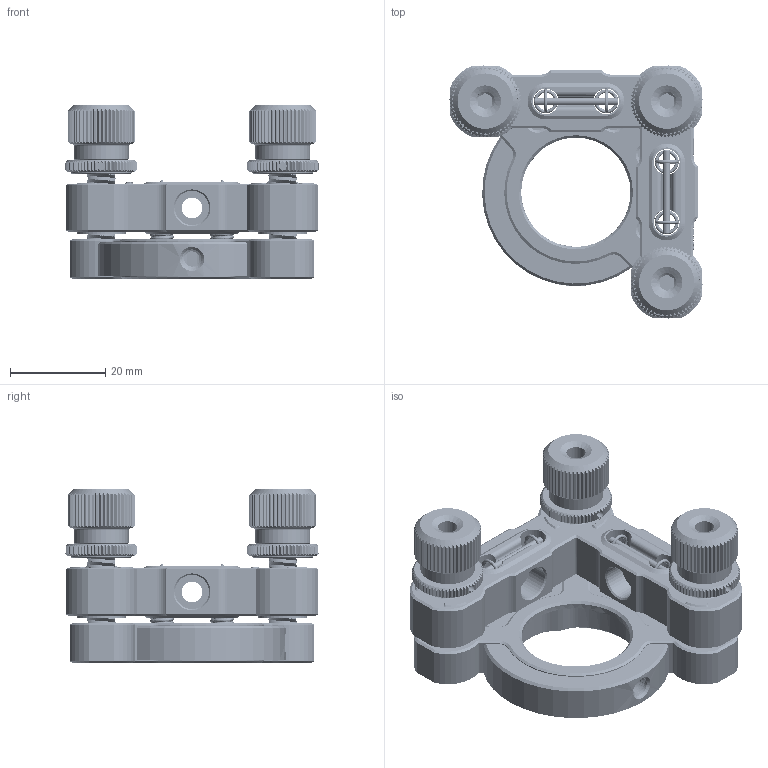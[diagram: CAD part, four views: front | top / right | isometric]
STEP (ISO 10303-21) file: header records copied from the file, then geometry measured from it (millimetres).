
FILE_DESCRIPTION((''),'2;1');
FILE_NAME('OST-K100_ASM','2026-05-25T17:09:08',('R&D'),(''),'CREO PARAMETRIC BY PTC INC, 2021063','CREO PARAMETRIC BY PTC INC, 2021063','');
FILE_SCHEMA(('CONFIG_CONTROL_DESIGN'));
Length unit declared in the file: millimetre
Products named in the file (13): MR100-S2_A5; MR100-S2_A3; MR100-S2_A4; MR100-S2_A2; PLS-G25_A5; PLS-G25_A1; PN1405; PN1506; PLS-G25_ASM; SPRING_5X9; AXLE_1_5_18; MR100-S2_A1; OST-K100_ASM
Assembly tree (22 placements, depth 3):
  OST-K100_ASM
    MR100-S2_A5
    MR100-S2_A3
    MR100-S2_A4
    MR100-S2_A2
    PLS-G25_A5  x3
    PLS-G25_ASM  x3
      PLS-G25_A1
      PN1405
      PN1506
    SPRING_5X9  x4
    AXLE_1_5_18  x4
    MR100-S2_A1
Bounding box: 53.01 x 53.01 x 36.35 mm (x, y, z)
Volume: 26554.4 mm3; surface area: 23988.1 mm2
Topology: 25 solids, 25 shells, 3527 faces, 9880 edges, 6438 vertices
Faces by surface type: plane 1588, cylinder 1267, bspline 370, cone 251, extrusion 39, sphere 6, torus 6
Entity records: 100968 total; most frequent: CARTESIAN_POINT 52869, ORIENTED_EDGE 10912, DIRECTION 8435, EDGE_CURVE 5456, VERTEX_POINT 3546, VECTOR 3109, LINE 3070, AXIS2_PLACEMENT_3D 2663
